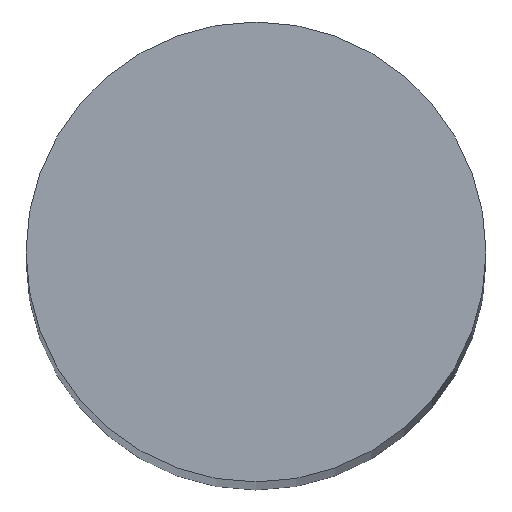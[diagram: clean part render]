
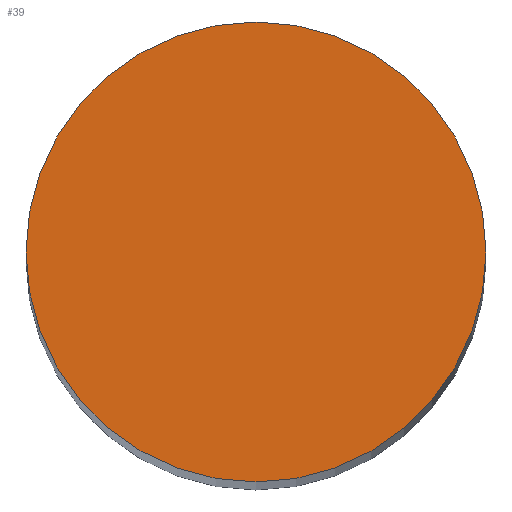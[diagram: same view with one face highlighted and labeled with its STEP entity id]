
A CAD part, top view. The second image highlights one B-rep face of the part: STEP entity #39.
In plain terms, the highlighted planar face has unit normal (0, 0, 1).
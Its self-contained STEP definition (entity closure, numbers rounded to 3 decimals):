
#18=FACE_OUTER_BOUND('',#21,.T.);
#21=EDGE_LOOP('',(#31));
#24=CIRCLE('',#57,15.);
#26=VERTEX_POINT('',#76);
#28=EDGE_CURVE('',#26,#26,#24,.T.);
#31=ORIENTED_EDGE('',*,*,#28,.F.);
#37=PLANE('',#56);
#39=ADVANCED_FACE('',(#18),#37,.T.);
#56=AXIS2_PLACEMENT_3D('',#75,#63,#64);
#57=AXIS2_PLACEMENT_3D('',#77,#65,#66);
#63=DIRECTION('center_axis',(0.,0.,1.));
#64=DIRECTION('ref_axis',(1.,0.,0.));
#65=DIRECTION('center_axis',(0.,0.,-1.));
#66=DIRECTION('ref_axis',(1.,0.,0.));
#75=CARTESIAN_POINT('Origin',(0.,0.,300.));
#76=CARTESIAN_POINT('',(-15.,0.,300.));
#77=CARTESIAN_POINT('Origin',(0.,0.,300.));
